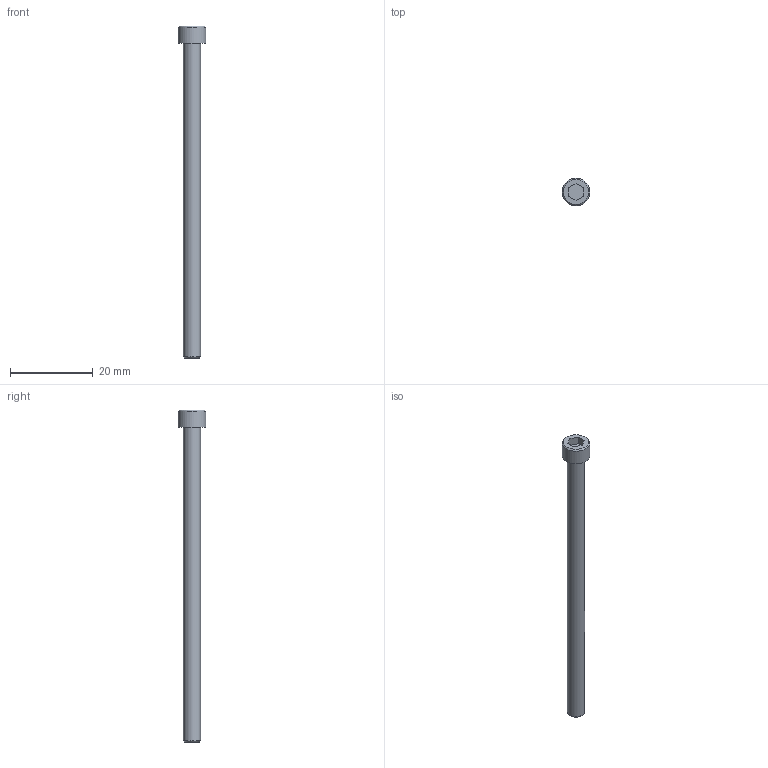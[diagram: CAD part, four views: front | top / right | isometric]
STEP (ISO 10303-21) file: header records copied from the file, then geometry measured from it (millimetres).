
FILE_DESCRIPTION((''),'2;1');
FILE_NAME('C:\Users\Stan\Desktop\import\SHCS 8-32 UNCx3.ipt.step','2011-08-18T17:45:42',(''),(''),'Autodesk Inventor 2012','Autodesk Inventor 2012','');
FILE_SCHEMA(('AUTOMOTIVE_DESIGN { 1 0 10303 214 1 1 1 1 }'));
Length unit declared in the file: inch
Products named in the file (1): SHCS 8-32 UNCx3
Bounding box: 6.76 x 6.76 x 80.31 mm (x, y, z)
Volume: 1162.2 mm3; surface area: 1173 mm2
Topology: 1 solids, 1 shells, 14 faces, 28 edges, 18 vertices
Faces by surface type: plane 10, cone 2, cylinder 2
Full cylindrical faces by diameter (mm): 4.166 x1, 6.756 x1
Entity records: 391 total; most frequent: DIRECTION 60, CARTESIAN_POINT 57, ORIENTED_EDGE 48, EDGE_CURVE 24, AXIS2_PLACEMENT_3D 21, EDGE_LOOP 20, VERTEX_POINT 18, VECTOR 18
